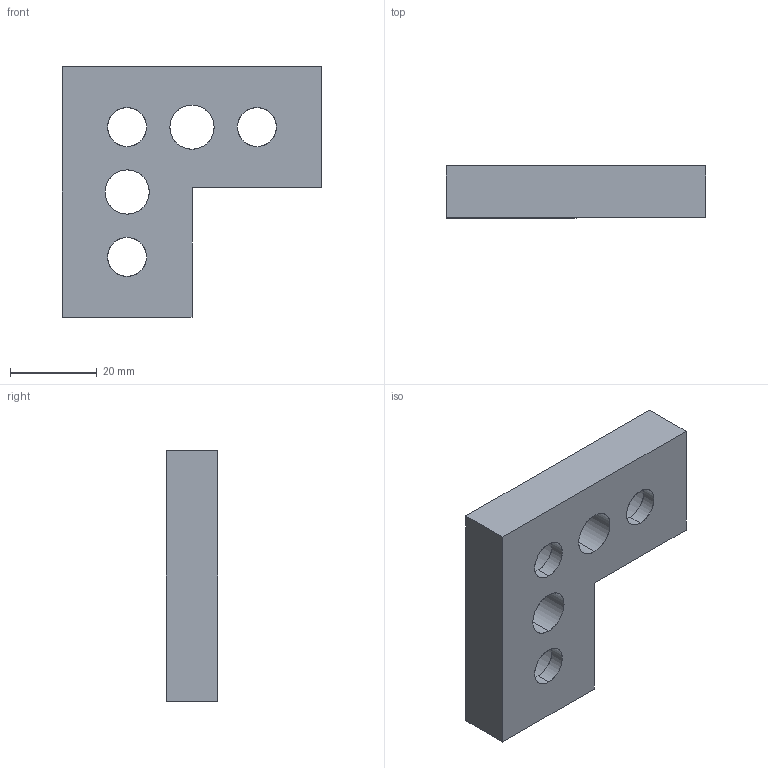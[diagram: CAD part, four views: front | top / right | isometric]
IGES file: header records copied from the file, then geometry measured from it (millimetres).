
Start section: SolidWorks IGES file using analytic representation for surfaces
Global section: file name: C:\Documents and Settings\Administrator\デスクトップ\指定保存後3回目\SolidWorks\SF\SF30\Parts\SFK-63A.IGS; native system: SolidWorks 2006 by SolidWorks Corporation; preprocessor: SolidWorks 2006 by SolidWorks Corporation; author: Administrator; date: 061213.110442; units: millimetre
Bounding box: 60 x 12 x 58 mm (x, y, z)
Surface area: 9475.6 mm2 (no closed solid volume)
Topology: 0 solids, 0 shells, 27 faces, 678 edges, 744 vertices
Faces by surface type: revolution 16, bspline 11
